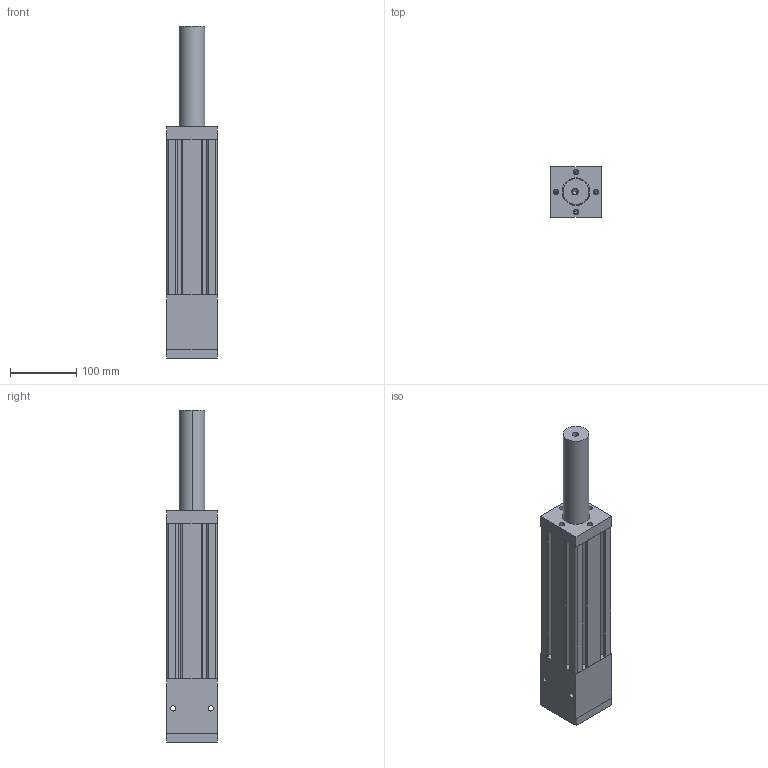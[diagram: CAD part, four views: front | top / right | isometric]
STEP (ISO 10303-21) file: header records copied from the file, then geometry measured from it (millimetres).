
FILE_DESCRIPTION (( 'STEP AP203' ), '1' );
FILE_NAME ('SS6.STEP', '2010-06-02T18:58:29', ( 'render' ), ( '' ), 'SwSTEP 2.0', 'SolidWorks 2009', '' );
FILE_SCHEMA (( 'CONFIG_CONTROL_DESIGN' ));
Length unit declared in the file: millimetre
Products named in the file (5): SS6; SS6-body; SS-back block; SS-76 mounting plate for 60mm servo ; SS-6-front block
Assembly tree (4 placements, depth 2):
  SS6
    SS-6-front block
    SS-76 mounting plate for 60mm servo 
    SS6-body
    SS-back block
Bounding box: 76.2 x 76.2 x 501.65 mm (x, y, z)
Volume: 1283072.7 mm3; surface area: 300963.3 mm2
Topology: 4 solids, 4 shells, 309 faces, 834 edges, 541 vertices
Faces by surface type: cylinder 176, plane 115, cone 18
Entity records: 10387 total; most frequent: CARTESIAN_POINT 1799, DIRECTION 1792, ORIENTED_EDGE 1632, EDGE_CURVE 816, AXIS2_PLACEMENT_3D 664, VERTEX_POINT 541, LINE 464, VECTOR 464
